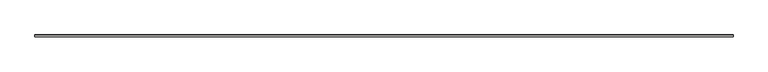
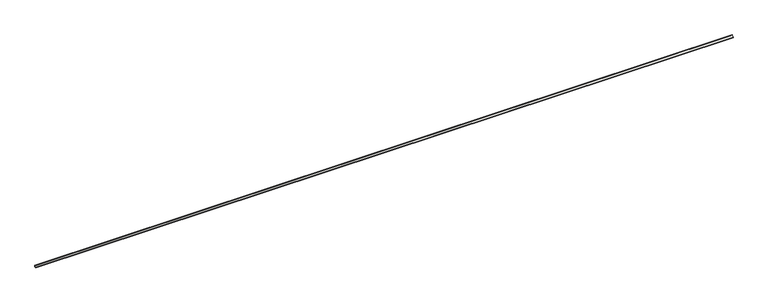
"""IFC4 building model written with IfcOpenShell, lengths in millimetres: slab geometry, ROSA GRES_112 : Pieza 112_Aqua_Marino_Liso."""

from ifc_helpers import new_model, si_unit, point, frame, frame_2d, origin, place, context, project, spatial, polyline, circle_curve, trimmed, segment, composite_curve, outline, extrude, source, transform, mapped, element, save


def slab_3fa4a234(model_context):
    return source(origin(), model_context, "Body", "SweptSolid", [
        extrude(outline(composite_curve([segment(polyline([(0.0, 8.7114978), (-8.7114978, 0.0), (-40.0, 0.0), (-40.0, 9.9734114)]), True, "CONTINUOUS"), segment(trimmed(circle_curve(frame_2d((-39.9955547, 39.9955547)), 30.0221435), [point((-40.0, 9.9734114))], [point((-9.9734114, 40.0))], True, "CARTESIAN"), True, "CONTINUOUS"), segment(polyline([(-9.9734114, 40.0), (0.0, 40.0), (0.0, 8.7114978)]), True, "CONTINUOUS")], self_intersect=False)), frame((0.0, 0.0, 0.0), z_axis=(1.0, 0.0, 0.0), x_axis=(0.0, 1.0, 0.0)), (0.0, 0.0, 1.0), 16255.0),
    ])


if __name__ == "__main__":
    model = new_model("IFC4")
    model_context = context("Model", 3, world=origin())
    ifc_project = project(units=[si_unit("LENGTHUNIT", "METRE", prefix="MILLI")], contexts=[model_context])
    site = spatial("IfcSite", under=ifc_project)
    building = spatial("IfcBuilding", under=site)
    placement = place(None, origin())
    slab_shape = slab_3fa4a234(model_context)
    element("IfcSlab", 1, ObjectType="ROSA GRES_112 : Pieza 112_Aqua_Marino_Liso", at=placement, inside=building, context=model_context, shape_type="MappedRepresentation", body=[
        mapped(slab_shape, transform((0.0, 0.0, 0.0), x_axis=(1.0, 0.0, 0.0), y_axis=(0.0, 1.0, 0.0), z_axis=(0.0, 0.0, 1.0))),
    ])
    save(model, "model.ifc")
